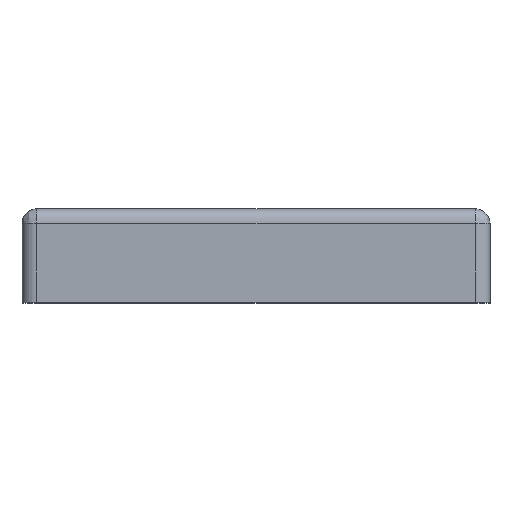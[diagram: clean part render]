
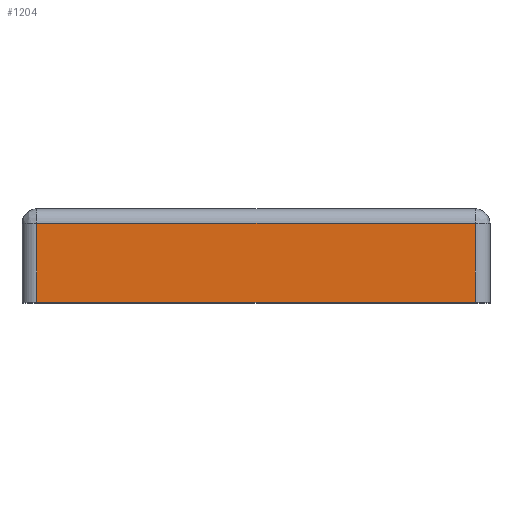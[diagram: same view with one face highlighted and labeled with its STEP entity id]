
A CAD part, top view. The second image highlights one B-rep face of the part: STEP entity #1204.
In plain terms, the highlighted planar face has unit normal (0, 0, 1).
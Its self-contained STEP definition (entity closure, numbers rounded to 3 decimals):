
#82 = DIRECTION ( 'NONE',  ( 0., 1., 0. ) ) ;
#125 = CARTESIAN_POINT ( 'NONE',  ( 57.5, -28., 48. ) ) ;
#127 = LINE ( 'NONE', #336, #443 ) ;
#152 = EDGE_LOOP ( 'NONE', ( #782, #319, #1134, #605 ) ) ;
#183 = CARTESIAN_POINT ( 'NONE',  ( 20., -14.5, 48. ) ) ;
#197 = AXIS2_PLACEMENT_3D ( 'NONE', #907, #802, #82 ) ;
#235 = EDGE_CURVE ( 'NONE', #636, #474, #775, .T. ) ;
#237 = PLANE ( 'NONE',  #197 ) ;
#238 = DIRECTION ( 'NONE',  ( 1., 0., 0. ) ) ;
#239 = DIRECTION ( 'NONE',  ( 1., 0., 0. ) ) ;
#242 = CARTESIAN_POINT ( 'NONE',  ( 20., -28., 48. ) ) ;
#319 = ORIENTED_EDGE ( 'NONE', *, *, #361, .F. ) ;
#336 = CARTESIAN_POINT ( 'NONE',  ( -17.5, -20., 48. ) ) ;
#361 = EDGE_CURVE ( 'NONE', #759, #636, #127, .T. ) ;
#400 = DIRECTION ( 'NONE',  ( 0., 1., 0. ) ) ;
#443 = VECTOR ( 'NONE', #400, 1000. ) ;
#474 = VERTEX_POINT ( 'NONE', #476 ) ;
#476 = CARTESIAN_POINT ( 'NONE',  ( 57.5, -14.5, 48. ) ) ;
#605 = ORIENTED_EDGE ( 'NONE', *, *, #725, .F. ) ;
#636 = VERTEX_POINT ( 'NONE', #737 ) ;
#725 = EDGE_CURVE ( 'NONE', #474, #1291, #916, .T. ) ;
#737 = CARTESIAN_POINT ( 'NONE',  ( -17.5, -14.5, 48. ) ) ;
#759 = VERTEX_POINT ( 'NONE', #897 ) ;
#775 = LINE ( 'NONE', #183, #1266 ) ;
#782 = ORIENTED_EDGE ( 'NONE', *, *, #235, .F. ) ;
#802 = DIRECTION ( 'NONE',  ( 0., 0., -1. ) ) ;
#809 = DIRECTION ( 'NONE',  ( 0., -1., 0. ) ) ;
#817 = CARTESIAN_POINT ( 'NONE',  ( 57.5, -21.25, 48. ) ) ;
#829 = LINE ( 'NONE', #242, #869 ) ;
#869 = VECTOR ( 'NONE', #238, 1000. ) ;
#897 = CARTESIAN_POINT ( 'NONE',  ( -17.5, -28., 48. ) ) ;
#900 = VECTOR ( 'NONE', #809, 1000. ) ;
#907 = CARTESIAN_POINT ( 'NONE',  ( 20., -20., 48. ) ) ;
#916 = LINE ( 'NONE', #817, #900 ) ;
#1134 = ORIENTED_EDGE ( 'NONE', *, *, #1275, .T. ) ;
#1160 = FACE_OUTER_BOUND ( 'NONE', #152, .T. ) ;
#1204 = ADVANCED_FACE ( 'NONE', ( #1160 ), #237, .F. ) ;
#1266 = VECTOR ( 'NONE', #239, 1000. ) ;
#1275 = EDGE_CURVE ( 'NONE', #759, #1291, #829, .T. ) ;
#1291 = VERTEX_POINT ( 'NONE', #125 ) ;
